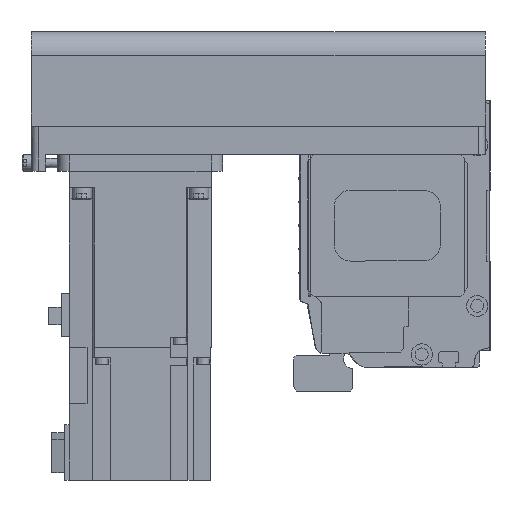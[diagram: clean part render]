
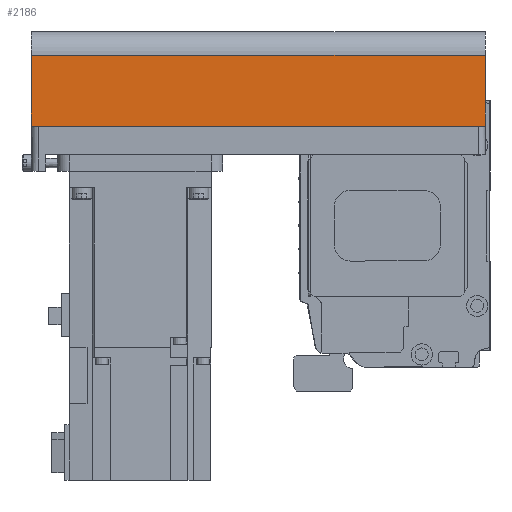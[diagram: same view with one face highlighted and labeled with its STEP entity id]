
A CAD part, left-side view. The second image highlights one B-rep face of the part: STEP entity #2186.
In plain terms, the highlighted planar face has unit normal (-1, 0, 0) as drawn and (0, 1, 0) by its records, which use the part's own axes.
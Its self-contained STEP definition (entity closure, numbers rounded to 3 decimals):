
#2186 = ADVANCED_FACE( '', ( #4601 ), #4602, .T. );
#4601 = FACE_OUTER_BOUND( '', #7113, .T. );
#4602 = PLANE( '', #7114 );
#7113 = EDGE_LOOP( '', ( #13038, #13039, #13040, #13041 ) );
#7114 = AXIS2_PLACEMENT_3D( '', #13042, #13043, #13044 );
#13038 = ORIENTED_EDGE( '', *, *, #15878, .F. );
#13039 = ORIENTED_EDGE( '', *, *, #16102, .F. );
#13040 = ORIENTED_EDGE( '', *, *, #14986, .T. );
#13041 = ORIENTED_EDGE( '', *, *, #16443, .T. );
#13042 = CARTESIAN_POINT( '', ( -192., 40., -42. ) );
#13043 = DIRECTION( '', ( 0., 1., 0. ) );
#13044 = DIRECTION( '', ( 0., 0., 1. ) );
#14986 = EDGE_CURVE( '', #18174, #18172, #18175, .T. );
#15878 = EDGE_CURVE( '', #19503, #18252, #19504, .T. );
#16102 = EDGE_CURVE( '', #18174, #19503, #19787, .T. );
#16443 = EDGE_CURVE( '', #18172, #18252, #20192, .T. );
#18172 = VERTEX_POINT( '', #22442 );
#18174 = VERTEX_POINT( '', #22445 );
#18175 = LINE( '', #22446, #22447 );
#18252 = VERTEX_POINT( '', #22547 );
#19503 = VERTEX_POINT( '', #24230 );
#19504 = LINE( '', #24231, #24232 );
#19787 = LINE( '', #24607, #24608 );
#20192 = LINE( '', #25143, #25144 );
#22442 = CARTESIAN_POINT( '', ( -192., 40., -12.1 ) );
#22445 = CARTESIAN_POINT( '', ( -192., 40., -42. ) );
#22446 = CARTESIAN_POINT( '', ( -192., 40., -42. ) );
#22447 = VECTOR( '', #26514, 1000. );
#22547 = CARTESIAN_POINT( '', ( 0., 40., -12.1 ) );
#24230 = CARTESIAN_POINT( '', ( 0., 40., -42. ) );
#24231 = CARTESIAN_POINT( '', ( 0., 40., -42. ) );
#24232 = VECTOR( '', #27615, 1000. );
#24607 = CARTESIAN_POINT( '', ( -192., 40., -42. ) );
#24608 = VECTOR( '', #27849, 1000. );
#25143 = CARTESIAN_POINT( '', ( -192., 40., -12.1 ) );
#25144 = VECTOR( '', #28163, 1000. );
#26514 = DIRECTION( '', ( 0., 0., 1. ) );
#27615 = DIRECTION( '', ( 0., 0., 1. ) );
#27849 = DIRECTION( '', ( 1., 0., 0. ) );
#28163 = DIRECTION( '', ( 1., 0., 0. ) );
